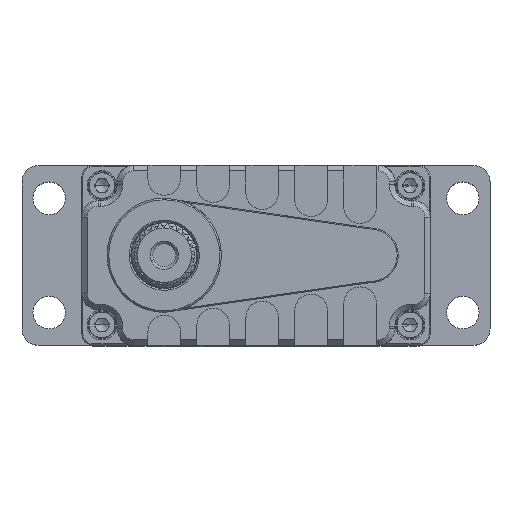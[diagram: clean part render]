
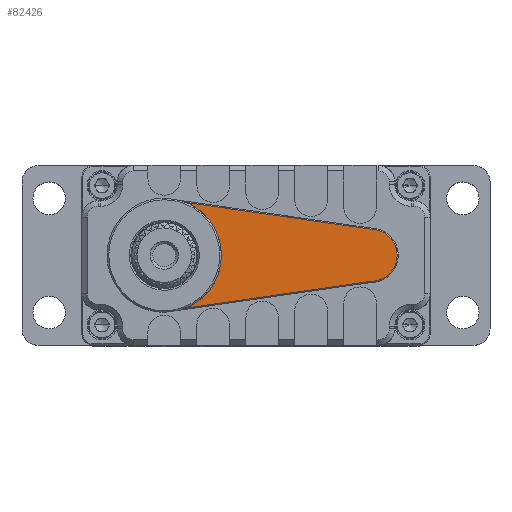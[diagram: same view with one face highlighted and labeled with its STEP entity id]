
A CAD part, top view. The second image highlights one B-rep face of the part: STEP entity #82426.
In plain terms, the highlighted planar face has unit normal (0, 0, 1).
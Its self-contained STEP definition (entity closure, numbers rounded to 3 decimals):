
#34 = EDGE_LOOP ( 'NONE', ( #41018, #74364, #4633, #39009, #52994 ) ) ;
#569 = LINE ( 'NONE', #58730, #23780 ) ;
#1060 = CIRCLE ( 'NONE', #53712, 10.5 ) ;
#1840 = DIRECTION ( 'NONE',  ( -0.99, -0.143, 0. ) ) ;
#2083 = CIRCLE ( 'NONE', #42302, 4.8 ) ;
#3130 = DIRECTION ( 'NONE',  ( 0., 0., 1. ) ) ;
#4617 = VECTOR ( 'NONE', #44046, 1000. ) ;
#4633 = ORIENTED_EDGE ( 'NONE', *, *, #71522, .T. ) ;
#4824 = DIRECTION ( 'NONE',  ( 0., 0., -1. ) ) ;
#7836 = CARTESIAN_POINT ( 'NONE',  ( -6.082, -3.414, 42.618 ) ) ;
#8378 = DIRECTION ( 'NONE',  ( 0., 0., -1. ) ) ;
#10619 = CIRCLE ( 'NONE', #69808, 10.5 ) ;
#14973 = DIRECTION ( 'NONE',  ( 1., 0., 0. ) ) ;
#17221 = DIRECTION ( 'NONE',  ( -1., 0., 0. ) ) ;
#20570 = VERTEX_POINT ( 'NONE', #61540 ) ;
#22240 = PLANE ( 'NONE',  #39964 ) ;
#23780 = VECTOR ( 'NONE', #1840, 1000. ) ;
#31050 = DIRECTION ( 'NONE',  ( 1., 0., 0. ) ) ;
#31903 = VERTEX_POINT ( 'NONE', #7836 ) ;
#37233 = CARTESIAN_POINT ( 'NONE',  ( -6.068, 1.386, 42.618 ) ) ;
#39009 = ORIENTED_EDGE ( 'NONE', *, *, #53145, .T. ) ;
#39103 = CARTESIAN_POINT ( 'NONE',  ( -6.082, 6.186, 42.618 ) ) ;
#39964 = AXIS2_PLACEMENT_3D ( 'NONE', #79498, #3130, #14973 ) ;
#41018 = ORIENTED_EDGE ( 'NONE', *, *, #78373, .F. ) ;
#42302 = AXIS2_PLACEMENT_3D ( 'NONE', #37233, #4824, #17221 ) ;
#43493 = CARTESIAN_POINT ( 'NONE',  ( -40.108, 11.11, 42.618 ) ) ;
#44046 = DIRECTION ( 'NONE',  ( 0.99, -0.143, 0. ) ) ;
#45866 = EDGE_CURVE ( 'NONE', #20570, #50397, #62041, .T. ) ;
#50142 = FACE_OUTER_BOUND ( 'NONE', #34, .T. ) ;
#50397 = VERTEX_POINT ( 'NONE', #39103 ) ;
#50458 = DIRECTION ( 'NONE',  ( 0., 0., -1. ) ) ;
#52994 = ORIENTED_EDGE ( 'NONE', *, *, #55099, .F. ) ;
#53145 = EDGE_CURVE ( 'NONE', #82883, #67124, #1060, .T. ) ;
#53392 = CARTESIAN_POINT ( 'NONE',  ( -44.068, 1.386, 42.618 ) ) ;
#53712 = AXIS2_PLACEMENT_3D ( 'NONE', #53392, #8378, #59577 ) ;
#55099 = EDGE_CURVE ( 'NONE', #31903, #67124, #569, .T. ) ;
#55131 = CARTESIAN_POINT ( 'NONE',  ( -33.568, 1.386, 42.618 ) ) ;
#58730 = CARTESIAN_POINT ( 'NONE',  ( -6.082, -3.414, 42.618 ) ) ;
#59577 = DIRECTION ( 'NONE',  ( 1., 0., 0. ) ) ;
#61540 = CARTESIAN_POINT ( 'NONE',  ( -40.108, 11.11, 42.618 ) ) ;
#62041 = LINE ( 'NONE', #43493, #4617 ) ;
#67124 = VERTEX_POINT ( 'NONE', #82324 ) ;
#69808 = AXIS2_PLACEMENT_3D ( 'NONE', #82409, #50458, #31050 ) ;
#71522 = EDGE_CURVE ( 'NONE', #20570, #82883, #10619, .T. ) ;
#74364 = ORIENTED_EDGE ( 'NONE', *, *, #45866, .F. ) ;
#78373 = EDGE_CURVE ( 'NONE', #50397, #31903, #2083, .T. ) ;
#79498 = CARTESIAN_POINT ( 'NONE',  ( -44.068, 1.386, 42.618 ) ) ;
#82324 = CARTESIAN_POINT ( 'NONE',  ( -40.108, -8.339, 42.618 ) ) ;
#82409 = CARTESIAN_POINT ( 'NONE',  ( -44.068, 1.386, 42.618 ) ) ;
#82426 = ADVANCED_FACE ( 'NONE', ( #50142 ), #22240, .T. ) ;
#82883 = VERTEX_POINT ( 'NONE', #55131 ) ;
